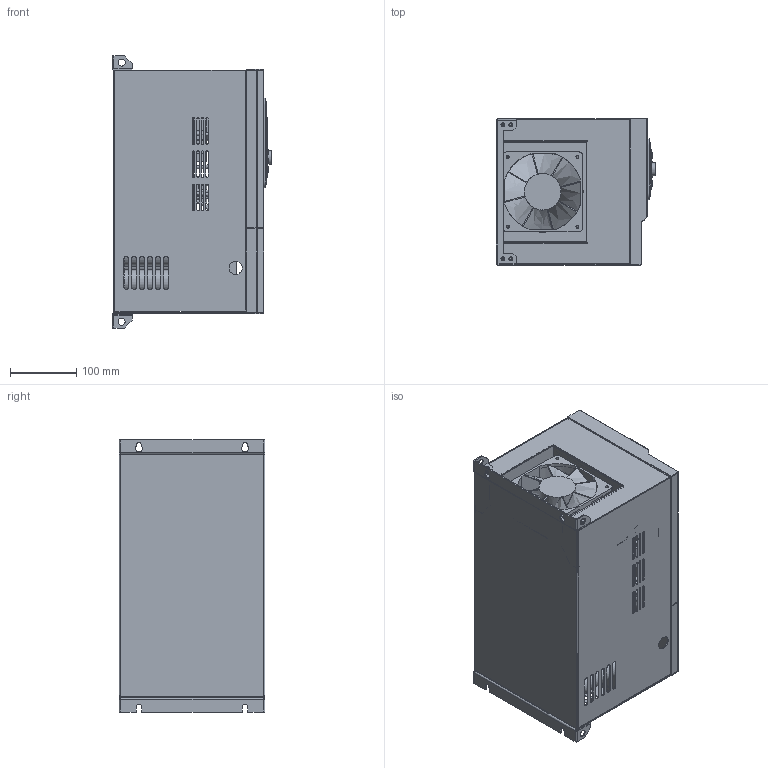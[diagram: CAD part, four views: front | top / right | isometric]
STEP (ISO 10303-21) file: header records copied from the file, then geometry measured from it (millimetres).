
FILE_DESCRIPTION(('STEP AP203'), '1');
FILE_NAME('Ïðåîáðàçîâàòåëü ÷àñòîòû _ LCI-G30_P37-4', '', ('UNSPECIFIED'), ('UNSPECIFIED'), 'C3D Converter', 'C3D Toolkit', '');
FILE_SCHEMA(('CONFIG_CONTROL_DESIGN'));
Length unit declared in the file: millimetre
Products named in the file (32): LCI-G30_P37-4; LCI-G30; LCI-G30-01; LCI-KP; LCI-MF-B
Assembly tree (33 placements, depth 3):
  LCI-G30_P37-4
    LCI-G30
      LCI-G30
      LCI-G30
      LCI-G30
      LCI-G30
      LCI-G30-01
      LCI-G30
      LCI-G30  x2
      LCI-G30-01  x2
    LCI-G30
      LCI-G30
      LCI-G30
    LCI-G30
    LCI-G30
      LCI-G30
      LCI-G30
    LCI-G30
    LCI-G30
    LCI-G30
    LCI-G30
    LCI-G30
    LCI-G30
    LCI-G30
    LCI-G30
    LCI-G30
    LCI-G30
    LCI-G30
    LCI-G30
    LCI-G30
    LCI-KP
    LCI-MF-B
Bounding box: 240.3 x 220.01 x 410.4 mm (x, y, z)
Volume: 3960893.4 mm3; surface area: 3008571.3 mm2
Topology: 64 solids, 64 shells, 5587 faces, 14779 edges, 9646 vertices
Faces by surface type: plane 3507, extrusion 1283, cylinder 719, bspline 40, torus 32, cone 4, sphere 2
Full cylindrical faces by diameter (mm): 2.5 x13, 3.3 x4, 3.5 x46, 3.9 x26, 4.5 x24, 4.6 x4, 4.8 x6, 5 x6, 5.3 x11, 5.4 x2, 5.5 x7, 5.6 x12, 5.7 x4, 5.8 x8, 6 x9, 6.5 x1, 7.5 x16, 10 x10, 10.3 x4, 10.7 x4, 13 x8, 20 x3, 21 x1, 35 x10, 122 x1
Entity records: 205432 total; most frequent: CARTESIAN_POINT 55969, ORIENTED_EDGE 28840, DIRECTION 22980, EDGE_CURVE 14420, VECTOR 11432, LINE 10149, VERTEX_POINT 9578, EDGE_LOOP 6680
